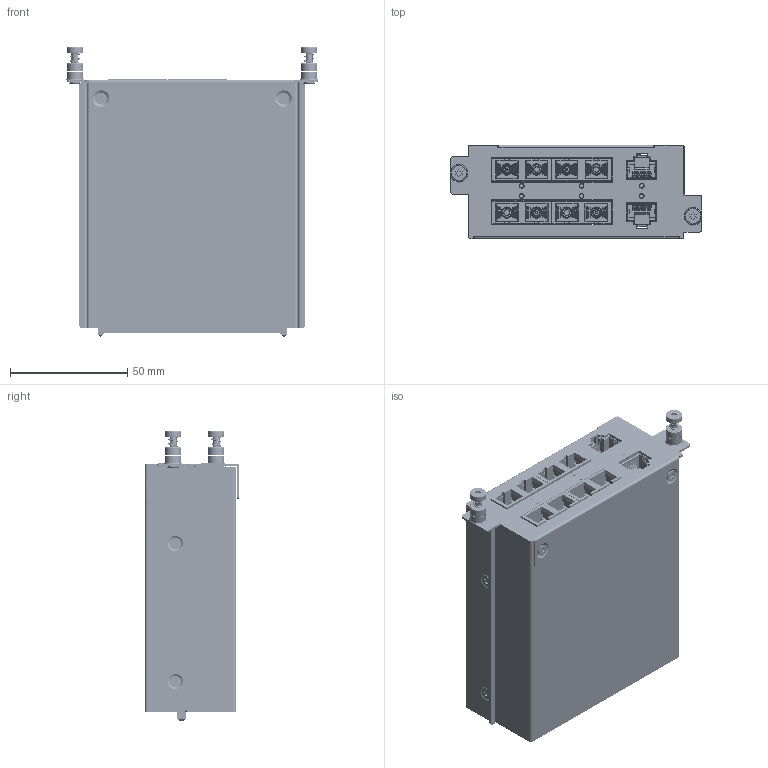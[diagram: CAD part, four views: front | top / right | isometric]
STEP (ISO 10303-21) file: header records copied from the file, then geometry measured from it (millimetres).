
FILE_DESCRIPTION((''),'2;1');
FILE_NAME('RM_G4000_4SSC_2TX','2022-06-28T02:13:53',('VicWM_Chen'),('PTC'),'CREO PARAMETRIC BY PTC INC, 2018020','CREO PARAMETRIC BY PTC INC, 2018020','');
FILE_SCHEMA(('AUTOMOTIVE_DESIGN { 1 0 10303 214 1 1 1 1 }'));
Products named in the file (1): RM_G4000_4SSC_2TX
Bounding box: 107.6 x 40.1 x 123.8 mm (x, y, z)
Surface area: 136389.5 mm2 (no closed solid volume)
Topology: 0 solids, 409 shells, 3885 faces, 21770 edges, 17771 vertices
Faces by surface type: plane 2685, cylinder 932, cone 117, torus 74, bspline 59, sphere 18
Entity records: 238587 total; most frequent: CARTESIAN_POINT 52915, DIRECTION 32476, ORIENTED_EDGE 29254, EDGE_CURVE 21754, VERTEX_POINT 17771, VECTOR 17398, LINE 17398, AXIS2_PLACEMENT_3D 7539
